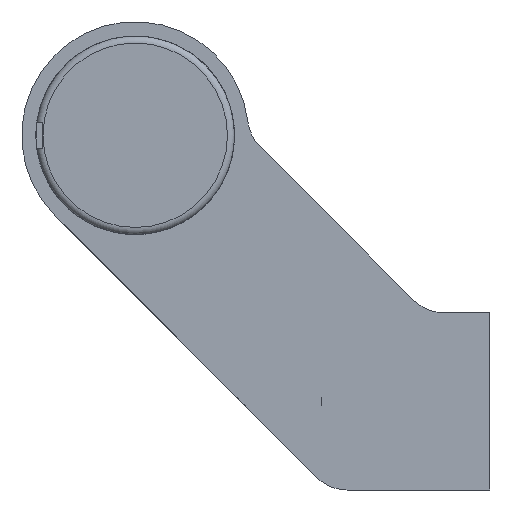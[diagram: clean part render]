
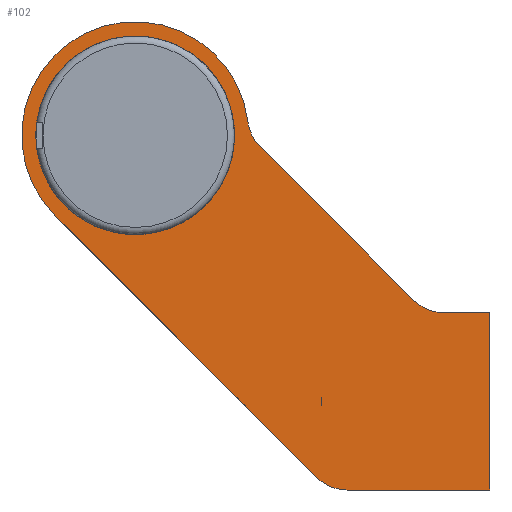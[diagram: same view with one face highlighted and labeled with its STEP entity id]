
A CAD part, left-side view. The second image highlights one B-rep face of the part: STEP entity #102.
In plain terms, the highlighted planar face has unit normal (-1, 0, 0).
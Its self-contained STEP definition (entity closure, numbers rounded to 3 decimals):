
#102 = ADVANCED_FACE( '', ( #191, #192 ), #193, .F. );
#191 = FACE_BOUND( '', #320, .T. );
#192 = FACE_OUTER_BOUND( '', #321, .T. );
#193 = PLANE( '', #322 );
#320 = EDGE_LOOP( '', ( #581 ) );
#321 = EDGE_LOOP( '', ( #582, #583, #584, #585, #586, #587, #588, #589, #590 ) );
#322 = AXIS2_PLACEMENT_3D( '', #591, #592, #593 );
#581 = ORIENTED_EDGE( '', *, *, #776, .T. );
#582 = ORIENTED_EDGE( '', *, *, #794, .F. );
#583 = ORIENTED_EDGE( '', *, *, #820, .F. );
#584 = ORIENTED_EDGE( '', *, *, #817, .F. );
#585 = ORIENTED_EDGE( '', *, *, #814, .F. );
#586 = ORIENTED_EDGE( '', *, *, #810, .F. );
#587 = ORIENTED_EDGE( '', *, *, #807, .T. );
#588 = ORIENTED_EDGE( '', *, *, #804, .F. );
#589 = ORIENTED_EDGE( '', *, *, #801, .T. );
#590 = ORIENTED_EDGE( '', *, *, #798, .F. );
#591 = CARTESIAN_POINT( '', ( -132., 50., 37.5 ) );
#592 = DIRECTION( '', ( 1., 0., 0. ) );
#593 = DIRECTION( '', ( 0., 0., -1. ) );
#776 = EDGE_CURVE( '', #900, #900, #901, .T. );
#794 = EDGE_CURVE( '', #931, #932, #933, .T. );
#798 = EDGE_CURVE( '', #932, #939, #940, .T. );
#801 = EDGE_CURVE( '', #944, #939, #945, .T. );
#804 = EDGE_CURVE( '', #944, #949, #950, .T. );
#807 = EDGE_CURVE( '', #954, #949, #955, .T. );
#810 = EDGE_CURVE( '', #954, #959, #960, .T. );
#814 = EDGE_CURVE( '', #959, #966, #967, .T. );
#817 = EDGE_CURVE( '', #966, #971, #972, .T. );
#820 = EDGE_CURVE( '', #971, #931, #976, .T. );
#900 = VERTEX_POINT( '', #1129 );
#901 = CIRCLE( '', #1130, 14. );
#931 = VERTEX_POINT( '', #1172 );
#932 = VERTEX_POINT( '', #1173 );
#933 = LINE( '', #1174, #1175 );
#939 = VERTEX_POINT( '', #1184 );
#940 = CIRCLE( '', #1185, 16. );
#944 = VERTEX_POINT( '', #1190 );
#945 = CIRCLE( '', #1191, 6. );
#949 = VERTEX_POINT( '', #1196 );
#950 = LINE( '', #1197, #1198 );
#954 = VERTEX_POINT( '', #1204 );
#955 = CIRCLE( '', #1205, 6. );
#959 = VERTEX_POINT( '', #1210 );
#960 = LINE( '', #1211, #1212 );
#966 = VERTEX_POINT( '', #1220 );
#967 = LINE( '', #1221, #1222 );
#971 = VERTEX_POINT( '', #1228 );
#972 = LINE( '', #1229, #1230 );
#976 = CIRCLE( '', #1236, 6. );
#1129 = CARTESIAN_POINT( '', ( -132., 50., 23.5 ) );
#1130 = AXIS2_PLACEMENT_3D( '', #1319, #1320, #1321 );
#1172 = CARTESIAN_POINT( '', ( -132., 24.385, -10.743 ) );
#1173 = CARTESIAN_POINT( '', ( -132., 61.314, 26.186 ) );
#1174 = CARTESIAN_POINT( '', ( -132., 24.385, -10.743 ) );
#1175 = VECTOR( '', #1360, 1000. );
#1184 = CARTESIAN_POINT( '', ( -132., 34.116, 39.424 ) );
#1185 = AXIS2_PLACEMENT_3D( '', #1364, #1365, #1366 );
#1190 = CARTESIAN_POINT( '', ( -132., 32.402, 35.902 ) );
#1191 = AXIS2_PLACEMENT_3D( '', #1371, #1372, #1373 );
#1196 = CARTESIAN_POINT( '', ( -132., 10.757, 14.257 ) );
#1197 = CARTESIAN_POINT( '', ( -132., 32.402, 35.902 ) );
#1198 = VECTOR( '', #1378, 1000. );
#1204 = CARTESIAN_POINT( '', ( -132., 6.515, 12.5 ) );
#1205 = AXIS2_PLACEMENT_3D( '', #1381, #1382, #1383 );
#1210 = CARTESIAN_POINT( '', ( -132., 0., 12.5 ) );
#1211 = CARTESIAN_POINT( '', ( -132., 6.515, 12.5 ) );
#1212 = VECTOR( '', #1388, 1000. );
#1220 = CARTESIAN_POINT( '', ( -132., 0., -12.5 ) );
#1221 = CARTESIAN_POINT( '', ( -132., 0., 12.5 ) );
#1222 = VECTOR( '', #1394, 1000. );
#1228 = CARTESIAN_POINT( '', ( -132., 20.142, -12.5 ) );
#1229 = CARTESIAN_POINT( '', ( -132., 0., -12.5 ) );
#1230 = VECTOR( '', #1397, 1000. );
#1236 = AXIS2_PLACEMENT_3D( '', #1400, #1401, #1402 );
#1319 = CARTESIAN_POINT( '', ( -132., 50., 37.5 ) );
#1320 = DIRECTION( '', ( 1., 0., 0. ) );
#1321 = DIRECTION( '', ( 0., 0., -1. ) );
#1360 = DIRECTION( '', ( 0., 0.707, 0.707 ) );
#1364 = CARTESIAN_POINT( '', ( -132., 50., 37.5 ) );
#1365 = DIRECTION( '', ( 1., 0., 0. ) );
#1366 = DIRECTION( '', ( 0., 0., -1. ) );
#1371 = CARTESIAN_POINT( '', ( -132., 28.16, 40.145 ) );
#1372 = DIRECTION( '', ( 1., 0., 0. ) );
#1373 = DIRECTION( '', ( 0., 0., -1. ) );
#1378 = DIRECTION( '', ( 0., -0.707, -0.707 ) );
#1381 = CARTESIAN_POINT( '', ( -132., 6.515, 18.5 ) );
#1382 = DIRECTION( '', ( 1., 0., 0. ) );
#1383 = DIRECTION( '', ( 0., 0., -1. ) );
#1388 = DIRECTION( '', ( 0., -1., 0. ) );
#1394 = DIRECTION( '', ( 0., 0., -1. ) );
#1397 = DIRECTION( '', ( 0., 1., 0. ) );
#1400 = CARTESIAN_POINT( '', ( -132., 20.142, -6.5 ) );
#1401 = DIRECTION( '', ( 1., 0., 0. ) );
#1402 = DIRECTION( '', ( 0., 0., -1. ) );
